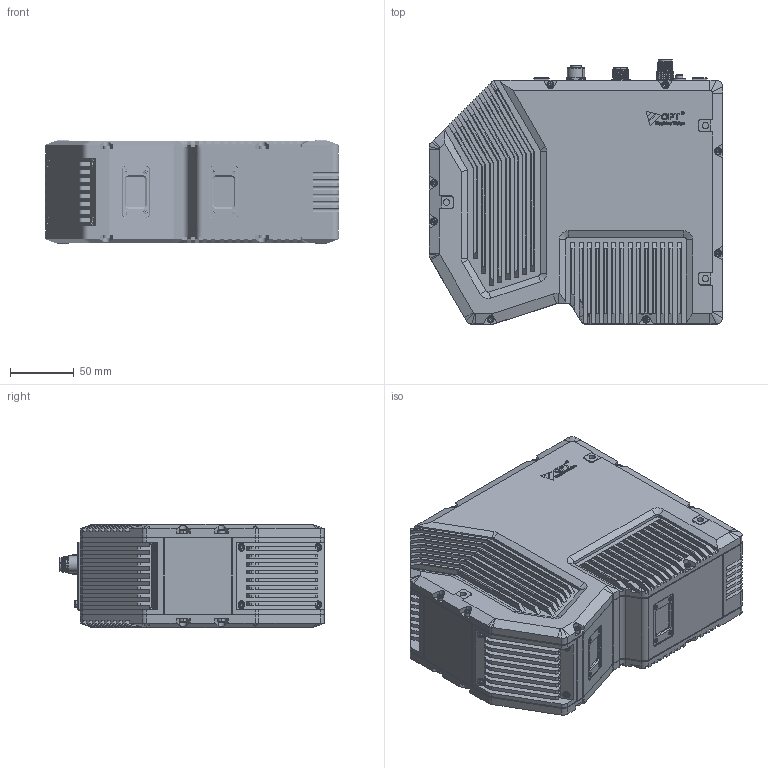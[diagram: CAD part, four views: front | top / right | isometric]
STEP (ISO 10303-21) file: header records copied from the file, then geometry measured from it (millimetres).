
FILE_DESCRIPTION((''),'2;1');
FILE_NAME('FPC1-020-200','2025-07-03T11:19:55',('chuan'),(''),'CREO PARAMETRIC BY PTC INC, 2020354','CREO PARAMETRIC BY PTC INC, 2020354','');
FILE_SCHEMA(('CONFIG_CONTROL_DESIGN','SHAPE_APPEARANCE_LAYERS_GROUPS'));
Products named in the file (1): FPC1-020-200
Bounding box: 230 x 207.1 x 81 mm (x, y, z)
Volume: 3056860.6 mm3; surface area: 293008.7 mm2
Topology: 1 solids, 122 shells, 5350 faces, 13720 edges, 8325 vertices
Faces by surface type: plane 2410, cylinder 1232, bspline 585, cone 556, extrusion 457, torus 86, sphere 24
Entity records: 318161 total; most frequent: CARTESIAN_POINT 123333, ORIENTED_EDGE 26420, DIRECTION 23429, PRESENTATION_STYLE_ASSIGNMENT 17760, STYLED_ITEM 13642, CURVE_STYLE 13641, EDGE_CURVE 13210, VERTEX_POINT 8323
